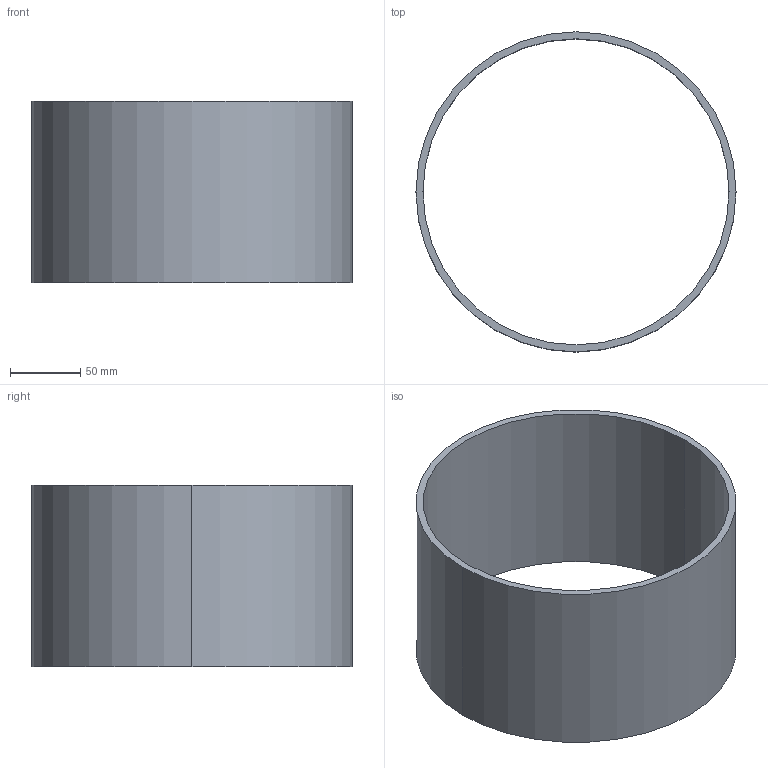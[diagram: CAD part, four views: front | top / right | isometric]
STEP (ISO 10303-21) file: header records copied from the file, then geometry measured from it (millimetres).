
FILE_DESCRIPTION(('CATIA V5 STEP Exchange'),'2;1');
FILE_NAME('C:\_Andres\UNIVERSIDAD\IQS\ASIGNATURAS\DAO\EXF\EXF-15161c\1original\Mas_Oliver_Ej07-tabla_v14.stp','2016-03-04T21:16:34+00:00',('none'),('none'),'CATIA Version 5 Release 20 SP 1 (IN-10)','CATIA V5 STEP AP203','none');
FILE_SCHEMA(('CONFIG_CONTROL_DESIGN'));
Length unit declared in the file: millimetre
Products named in the file (1): Mas_Oliver_Ej07-tabla_v14
Bounding box: 228 x 228 x 129 mm (x, y, z)
Volume: 451871 mm3; surface area: 187754.1 mm2
Topology: 1 solids, 1 shells, 6 faces, 13 edges, 10 vertices
Faces by surface type: cylinder 4, plane 2
Entity records: 208 total; most frequent: CARTESIAN_POINT 29, ORIENTED_EDGE 24, DIRECTION 23, AXIS2_PLACEMENT_3D 14, EDGE_CURVE 12, CIRCLE 8, EDGE_LOOP 8, VERTEX_POINT 8
